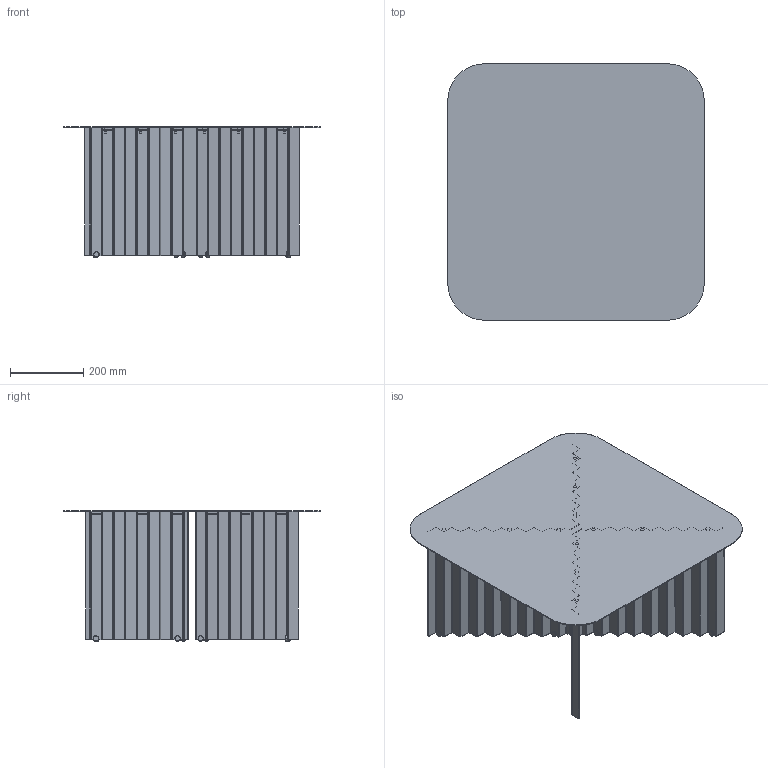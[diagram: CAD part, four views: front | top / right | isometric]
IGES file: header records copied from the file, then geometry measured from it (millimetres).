
Start section: START RECORD GO HERE.
Global section: file name: RS_Plec_Medium.igs; native system: DASSAULT SYSTEMES CATIA V5 R21 - www.3ds.com; preprocessor: CATIA Version 5 Release 21 ; author: DISSENY; organization: DISSENY-PC; date: 20170510.154146; units: millimetre
Bounding box: 700 x 700 x 356 mm (x, y, z)
Surface area: 2516010.9 mm2 (no closed solid volume)
Topology: 0 solids, 0 shells, 1026 faces, 4288 edges, 4290 vertices
Faces by surface type: plane 654, revolution 372
